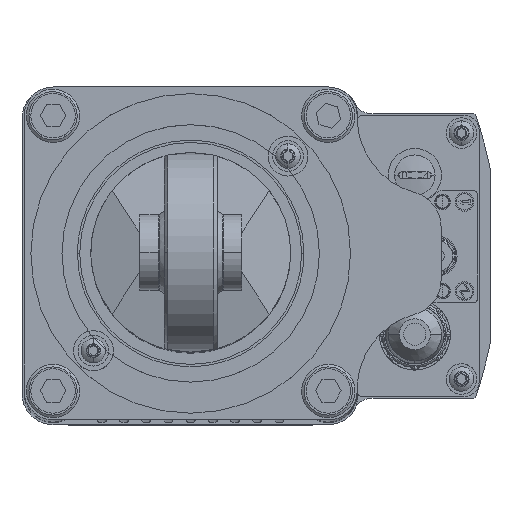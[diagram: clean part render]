
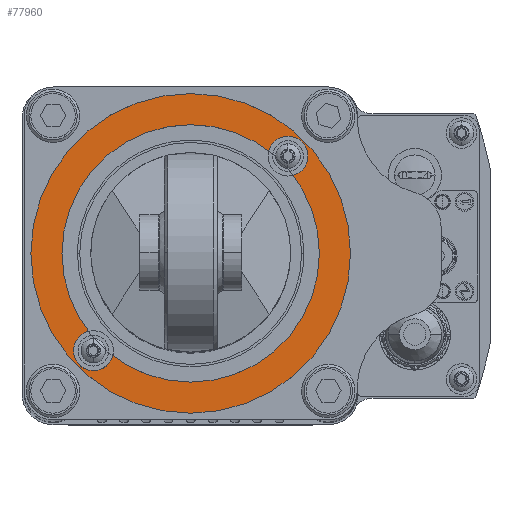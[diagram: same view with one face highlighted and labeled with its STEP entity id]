
A CAD part, top view. The second image highlights one B-rep face of the part: STEP entity #77960.
In plain terms, the highlighted planar face has unit normal (0, 0, 1).
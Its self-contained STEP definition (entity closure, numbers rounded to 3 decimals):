
#4340 = CARTESIAN_POINT ( 'NONE',  ( 23.17, 21.92, 337.9 ) ) ;
#12364 = CARTESIAN_POINT ( 'NONE',  ( 0., 0., 337.9 ) ) ;
#14745 = VERTEX_POINT ( 'NONE', #172484 ) ;
#15544 = ORIENTED_EDGE ( 'NONE', *, *, #66446, .F. ) ;
#20157 = PLANE ( 'NONE',  #146785 ) ;
#21090 = VERTEX_POINT ( 'NONE', #122635 ) ;
#21230 = CARTESIAN_POINT ( 'NONE',  ( 21.92, 21.92, 337.9 ) ) ;
#25179 = DIRECTION ( 'NONE',  ( 1., 0., 0. ) ) ;
#27172 = CARTESIAN_POINT ( 'NONE',  ( -21.92, -21.92, 337.9 ) ) ;
#28075 = CIRCLE ( 'NONE', #130305, 1.25 ) ;
#29905 = EDGE_CURVE ( 'NONE', #156943, #70440, #137104, .T. ) ;
#30764 = CARTESIAN_POINT ( 'NONE',  ( -29., 0., 337.9 ) ) ;
#31684 = VERTEX_POINT ( 'NONE', #87843 ) ;
#34332 = DIRECTION ( 'NONE',  ( 0., 0., 1. ) ) ;
#37095 = EDGE_LOOP ( 'NONE', ( #67668, #88991 ) ) ;
#40764 = DIRECTION ( 'NONE',  ( 1., 0., 0. ) ) ;
#42129 = CARTESIAN_POINT ( 'NONE',  ( -21.92, -21.92, 337.9 ) ) ;
#42160 = DIRECTION ( 'NONE',  ( 1., 0., 0. ) ) ;
#43022 = DIRECTION ( 'NONE',  ( 0., 0., 1. ) ) ;
#52331 = DIRECTION ( 'NONE',  ( 0., 0., 1. ) ) ;
#54633 = AXIS2_PLACEMENT_3D ( 'NONE', #12364, #52331, #40764 ) ;
#55504 = CARTESIAN_POINT ( 'NONE',  ( 21.92, 21.92, 337.9 ) ) ;
#56385 = DIRECTION ( 'NONE',  ( 1., 0., 0. ) ) ;
#59052 = CARTESIAN_POINT ( 'NONE',  ( 36., 0., 337.9 ) ) ;
#60264 = EDGE_CURVE ( 'NONE', #21090, #31684, #123127, .T. ) ;
#61902 = DIRECTION ( 'NONE',  ( 1., 0., 0. ) ) ;
#61937 = FACE_BOUND ( 'NONE', #37095, .T. ) ;
#64315 = DIRECTION ( 'NONE',  ( 0., 0., 1. ) ) ;
#64322 = CARTESIAN_POINT ( 'NONE',  ( 0., 0., 337.9 ) ) ;
#66446 = EDGE_CURVE ( 'NONE', #31684, #21090, #98396, .T. ) ;
#67668 = ORIENTED_EDGE ( 'NONE', *, *, #135936, .F. ) ;
#69110 = ORIENTED_EDGE ( 'NONE', *, *, #135420, .F. ) ;
#70440 = VERTEX_POINT ( 'NONE', #59052 ) ;
#76204 = FACE_BOUND ( 'NONE', #117539, .T. ) ;
#76684 = CIRCLE ( 'NONE', #113595, 36. ) ;
#77071 = FACE_OUTER_BOUND ( 'NONE', #145047, .T. ) ;
#77960 = ADVANCED_FACE ( 'NONE', ( #61937, #76204, #77071, #89455 ), #20157, .T. ) ;
#78576 = DIRECTION ( 'NONE',  ( 1., 0., 0. ) ) ;
#80134 = ORIENTED_EDGE ( 'NONE', *, *, #29905, .T. ) ;
#80564 = DIRECTION ( 'NONE',  ( 0., 0., 1. ) ) ;
#84409 = VERTEX_POINT ( 'NONE', #4340 ) ;
#85746 = ORIENTED_EDGE ( 'NONE', *, *, #164235, .T. ) ;
#87293 = VERTEX_POINT ( 'NONE', #30764 ) ;
#87843 = CARTESIAN_POINT ( 'NONE',  ( -23.17, -21.92, 337.9 ) ) ;
#88991 = ORIENTED_EDGE ( 'NONE', *, *, #163027, .F. ) ;
#89455 = FACE_BOUND ( 'NONE', #124324, .T. ) ;
#91192 = CARTESIAN_POINT ( 'NONE',  ( 0., 0., 337.9 ) ) ;
#93112 = AXIS2_PLACEMENT_3D ( 'NONE', #55504, #43022, #42160 ) ;
#95528 = AXIS2_PLACEMENT_3D ( 'NONE', #42129, #95534, #56385 ) ;
#95534 = DIRECTION ( 'NONE',  ( 0., 0., 1. ) ) ;
#95688 = ORIENTED_EDGE ( 'NONE', *, *, #60264, .F. ) ;
#96751 = ORIENTED_EDGE ( 'NONE', *, *, #134112, .F. ) ;
#98396 = CIRCLE ( 'NONE', #95528, 1.25 ) ;
#103473 = DIRECTION ( 'NONE',  ( 0., 0., 1. ) ) ;
#104273 = CIRCLE ( 'NONE', #129939, 29. ) ;
#104374 = CARTESIAN_POINT ( 'NONE',  ( 0., 0., 337.9 ) ) ;
#108981 = DIRECTION ( 'NONE',  ( 1., 0., 0. ) ) ;
#113552 = CARTESIAN_POINT ( 'NONE',  ( 29., 0., 337.9 ) ) ;
#113595 = AXIS2_PLACEMENT_3D ( 'NONE', #104374, #64315, #78576 ) ;
#117539 = EDGE_LOOP ( 'NONE', ( #95688, #15544 ) ) ;
#122635 = CARTESIAN_POINT ( 'NONE',  ( -20.67, -21.92, 337.9 ) ) ;
#123127 = CIRCLE ( 'NONE', #145954, 1.25 ) ;
#124324 = EDGE_LOOP ( 'NONE', ( #96751, #69110 ) ) ;
#127204 = CIRCLE ( 'NONE', #93112, 1.25 ) ;
#127640 = AXIS2_PLACEMENT_3D ( 'NONE', #64322, #103473, #25179 ) ;
#129547 = DIRECTION ( 'NONE',  ( 0., 0., 1. ) ) ;
#129939 = AXIS2_PLACEMENT_3D ( 'NONE', #156270, #34332, #61902 ) ;
#130305 = AXIS2_PLACEMENT_3D ( 'NONE', #21230, #80564, #134823 ) ;
#133394 = CIRCLE ( 'NONE', #127640, 29. ) ;
#134112 = EDGE_CURVE ( 'NONE', #87293, #134892, #104273, .T. ) ;
#134823 = DIRECTION ( 'NONE',  ( 1., 0., 0. ) ) ;
#134892 = VERTEX_POINT ( 'NONE', #113552 ) ;
#135420 = EDGE_CURVE ( 'NONE', #134892, #87293, #133394, .T. ) ;
#135936 = EDGE_CURVE ( 'NONE', #84409, #14745, #28075, .T. ) ;
#137104 = CIRCLE ( 'NONE', #54633, 36. ) ;
#145047 = EDGE_LOOP ( 'NONE', ( #80134, #85746 ) ) ;
#145954 = AXIS2_PLACEMENT_3D ( 'NONE', #27172, #174953, #108981 ) ;
#146785 = AXIS2_PLACEMENT_3D ( 'NONE', #91192, #129547, #170578 ) ;
#156270 = CARTESIAN_POINT ( 'NONE',  ( 0., 0., 337.9 ) ) ;
#156943 = VERTEX_POINT ( 'NONE', #164758 ) ;
#163027 = EDGE_CURVE ( 'NONE', #14745, #84409, #127204, .T. ) ;
#164235 = EDGE_CURVE ( 'NONE', #70440, #156943, #76684, .T. ) ;
#164758 = CARTESIAN_POINT ( 'NONE',  ( -36., 0., 337.9 ) ) ;
#170578 = DIRECTION ( 'NONE',  ( 1., 0., 0. ) ) ;
#172484 = CARTESIAN_POINT ( 'NONE',  ( 20.67, 21.92, 337.9 ) ) ;
#174953 = DIRECTION ( 'NONE',  ( 0., 0., 1. ) ) ;
